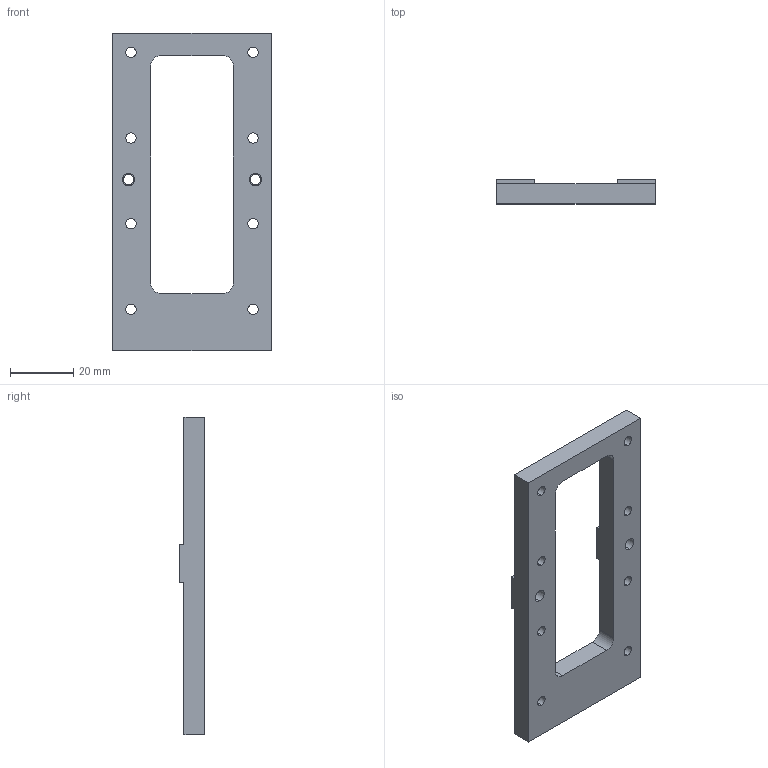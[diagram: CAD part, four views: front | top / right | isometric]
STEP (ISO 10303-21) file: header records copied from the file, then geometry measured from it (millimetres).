
FILE_DESCRIPTION (( 'STEP AP214' ), '1' );
FILE_NAME ('Cover, Chip, Desk Top, Biolink R02.STEP', '2026-07-27T21:09:44', ( '' ), ( '' ), 'SwSTEP 2.0', 'SolidWorks 2025', '' );
FILE_SCHEMA (( 'AUTOMOTIVE_DESIGN' ));
Length unit declared in the file: millimetre
Products named in the file (1): Cover, Chip, Desk Top, Biolink R02
Bounding box: 50 x 7.65 x 100 mm (x, y, z)
Volume: 19183 mm3; surface area: 9938.8 mm2
Topology: 1 solids, 1 shells, 53 faces, 144 edges, 96 vertices
Faces by surface type: cylinder 32, plane 21
Entity records: 1769 total; most frequent: DIRECTION 316, CARTESIAN_POINT 294, ORIENTED_EDGE 288, EDGE_CURVE 144, AXIS2_PLACEMENT_3D 118, VERTEX_POINT 96, VECTOR 80, LINE 80
